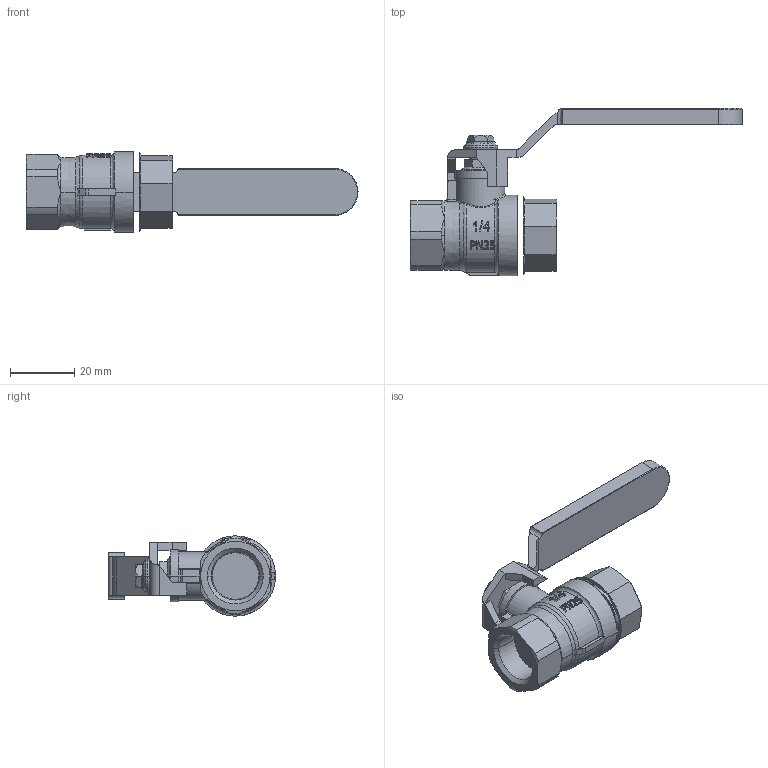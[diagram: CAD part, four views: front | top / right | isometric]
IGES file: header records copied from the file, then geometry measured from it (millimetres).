
Global section: file name: No Iges File Name specified; native system: AutoDesk Inventor R12.0; preprocessor: AutoDesk Inventor Iges Exporter R12.0; date: 20110209.143303; units: millimetre
Bounding box: 103.35 x 52 x 25 mm (x, y, z)
Volume: 22354.4 mm3; surface area: 9569.5 mm2
Topology: 1 solids, 2 shells, 1144 faces, 3061 edges, 2004 vertices
Faces by surface type: plane 660, bspline 357, cylinder 58, cone 30, revolution 28, torus 11
Full cylindrical faces by diameter (mm): 24.5 x2
